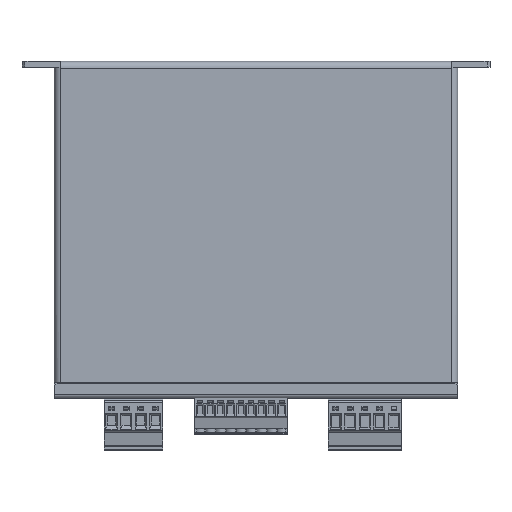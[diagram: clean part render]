
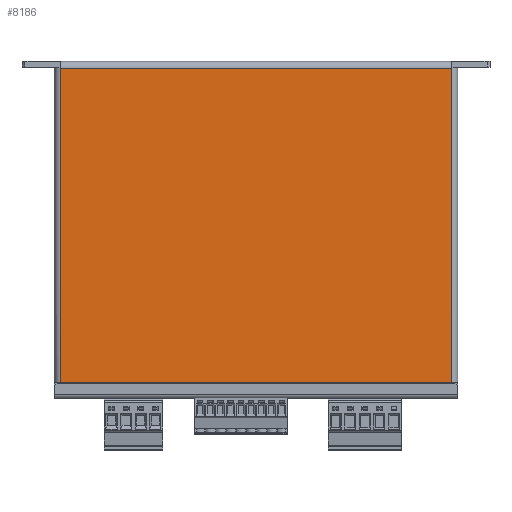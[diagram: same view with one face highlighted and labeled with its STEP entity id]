
A CAD part, top view. The second image highlights one B-rep face of the part: STEP entity #8186.
In plain terms, the highlighted planar face has unit normal (0, 0, 1).
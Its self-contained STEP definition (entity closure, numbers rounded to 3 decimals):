
#8186 = ADVANCED_FACE( '', ( #17578 ), #17579, .T. );
#17578 = FACE_OUTER_BOUND( '', #29631, .T. );
#17579 = PLANE( '', #29632 );
#29631 = EDGE_LOOP( '', ( #54466, #54467, #54468, #54469 ) );
#29632 = AXIS2_PLACEMENT_3D( '', #54470, #54471, #54472 );
#54466 = ORIENTED_EDGE( '', *, *, #72807, .T. );
#54467 = ORIENTED_EDGE( '', *, *, #66928, .T. );
#54468 = ORIENTED_EDGE( '', *, *, #71722, .T. );
#54469 = ORIENTED_EDGE( '', *, *, #72028, .T. );
#54470 = CARTESIAN_POINT( '', ( -69., -115., 22. ) );
#54471 = DIRECTION( '', ( 0., 0., 1. ) );
#54472 = DIRECTION( '', ( 1., 0., 0. ) );
#66928 = EDGE_CURVE( '', #80979, #80976, #80980, .F. );
#71722 = EDGE_CURVE( '', #80976, #87987, #87988, .T. );
#72028 = EDGE_CURVE( '', #87987, #88375, #88377, .T. );
#72807 = EDGE_CURVE( '', #88375, #80979, #89330, .T. );
#80976 = VERTEX_POINT( '', #101549 );
#80979 = VERTEX_POINT( '', #101552 );
#80980 = LINE( '', #101553, #101554 );
#87987 = VERTEX_POINT( '', #113296 );
#87988 = LINE( '', #113297, #113298 );
#88375 = VERTEX_POINT( '', #113901 );
#88377 = LINE( '', #113903, #113904 );
#89330 = LINE( '', #115397, #115398 );
#101549 = CARTESIAN_POINT( '', ( -66.7, -107.9, 22. ) );
#101552 = CARTESIAN_POINT( '', ( -66.7, -0.3, 22. ) );
#101553 = CARTESIAN_POINT( '', ( -66.7, -115., 22. ) );
#101554 = VECTOR( '', #122223, 1000. );
#113296 = CARTESIAN_POINT( '', ( 66.7, -107.9, 22. ) );
#113297 = CARTESIAN_POINT( '', ( -69., -107.9, 22. ) );
#113298 = VECTOR( '', #127194, 1000. );
#113901 = CARTESIAN_POINT( '', ( 66.7, -0.3, 22. ) );
#113903 = CARTESIAN_POINT( '', ( 66.7, -115., 22. ) );
#113904 = VECTOR( '', #127454, 1000. );
#115397 = CARTESIAN_POINT( '', ( -69., -0.3, 22. ) );
#115398 = VECTOR( '', #128074, 1000. );
#122223 = DIRECTION( '', ( 0., 1., 0. ) );
#127194 = DIRECTION( '', ( 1., 0., 0. ) );
#127454 = DIRECTION( '', ( 0., 1., 0. ) );
#128074 = DIRECTION( '', ( -1., 0., 0. ) );
